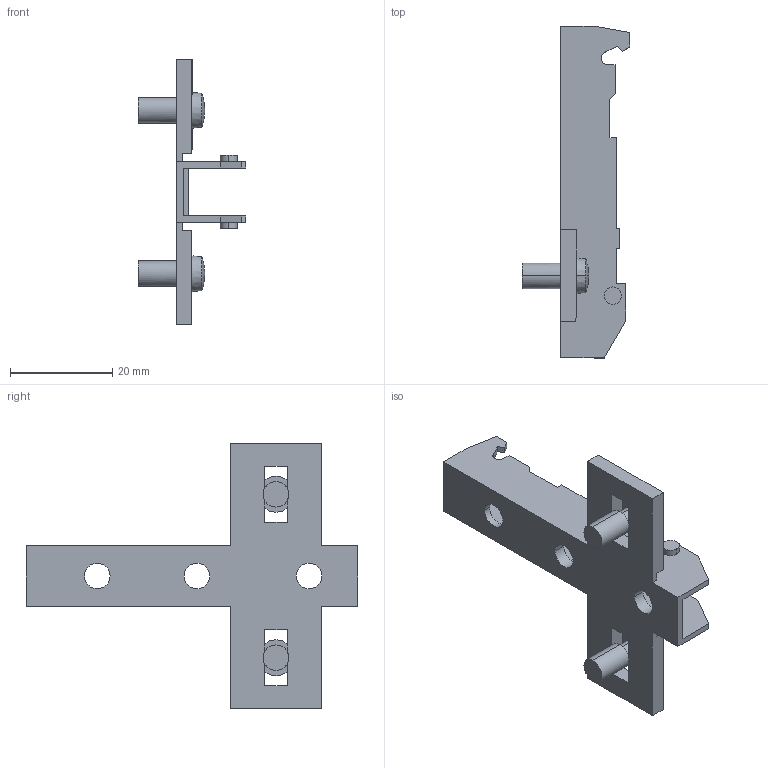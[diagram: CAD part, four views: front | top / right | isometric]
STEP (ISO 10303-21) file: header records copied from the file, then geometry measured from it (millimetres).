
FILE_DESCRIPTION (( 'STEP AP214' ), '1' );
FILE_NAME ('Eco Kreuzmontageplatte LR28_32_Dübel 5mm_kurz_H03.step', '2010-11-18T10:07:06', ( 'grass' ), ( '' ), 'SwSTEP 2.0', 'SolidWorks 2010', '' );
FILE_SCHEMA (( 'AUTOMOTIVE_DESIGN' ));
Length unit declared in the file: millimetre
Products named in the file (1): Eco Kreuzmontageplatte LR28_32_Dübel 5mm_kurz_H03
Bounding box: 21 x 65 x 52 mm (x, y, z)
Volume: 5042.8 mm3; surface area: 6590.9 mm2
Topology: 1 solids, 1 shells, 104 faces, 306 edges, 198 vertices
Faces by surface type: plane 76, cylinder 20, sphere 4, cone 4
Entity records: 3512 total; most frequent: ORIENTED_EDGE 612, CARTESIAN_POINT 609, DIRECTION 584, EDGE_CURVE 306, LINE 238, VECTOR 238, VERTEX_POINT 198, AXIS2_PLACEMENT_3D 173
